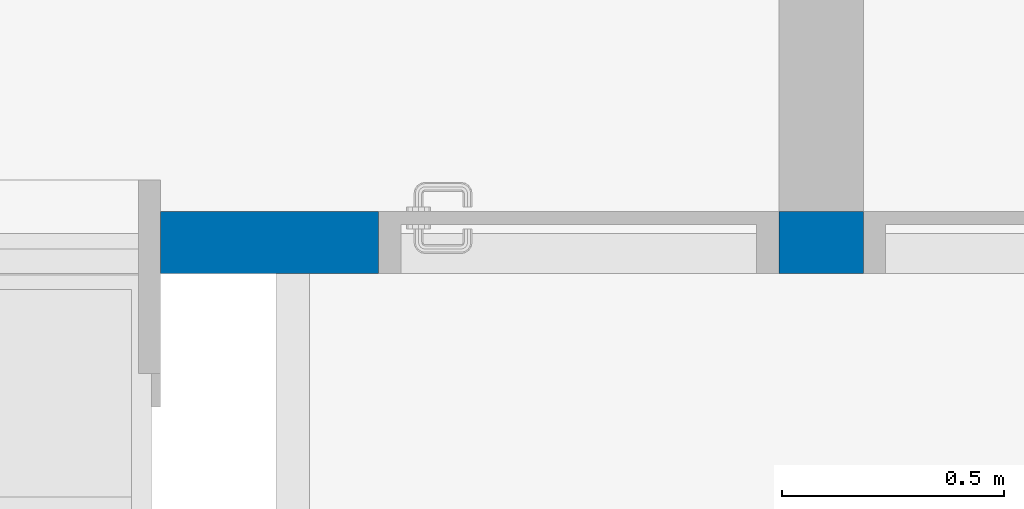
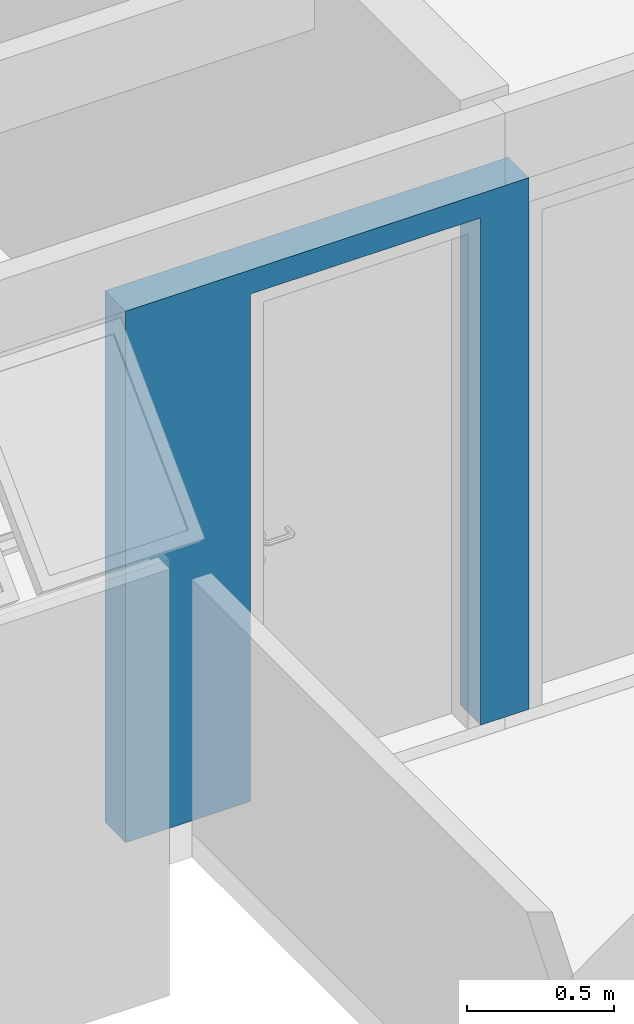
# One storey, part 17 of 37: 1 wall, 1 opening.
"""IFC2X3 building model written with IfcOpenShell, lengths in millimetres."""

from ifc_helpers import new_model, entity, si_unit, converted_unit, derived_unit, money_unit, direction, frame, origin_with_axes, origin_2d_with_axis, place, context, subcontext, project, spatial, polyline, rectangle, outline, extrude, material, layer, layer_set, layer_usage, type_object, element, save


model = new_model("IFC2X3")

# Units and contexts
model_context = context("Model", 3, precision=0.01, world=origin_with_axes(), true_north=direction((0.0, 1.0)))
body_context = subcontext(model_context, "Body", "Model", "MODEL_VIEW")
ifc_project = project(units=[si_unit("LENGTHUNIT", "METRE", prefix="MILLI"), si_unit("AREAUNIT", "SQUARE_METRE"), si_unit("VOLUMEUNIT", "CUBIC_METRE"), converted_unit("PLANEANGLEUNIT", "DEGREE", entity("IfcPlaneAngleMeasure", 0.0174532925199), si_unit("PLANEANGLEUNIT", "RADIAN"), dimensions=[0, 0, 0, 0, 0, 0, 0]), money_unit("USD"), converted_unit("TIMEUNIT", "Year", entity("IfcTimeMeasure", 31556926.0), si_unit("TIMEUNIT", "SECOND"), dimensions=[0, 0, 1, 0, 0, 0, 0]), si_unit("MASSUNIT", "GRAM", prefix="KILO"), si_unit("THERMODYNAMICTEMPERATUREUNIT", "DEGREE_CELSIUS"), si_unit("LUMINOUSINTENSITYUNIT", "LUMEN"), si_unit("ENERGYUNIT", "JOULE", prefix="MEGA"), derived_unit("THERMALCONDUCTANCEUNIT", [(si_unit("POWERUNIT", "WATT"), 1), (si_unit("LENGTHUNIT", "METRE"), -1), (si_unit("THERMODYNAMICTEMPERATUREUNIT", "KELVIN"), -1)]), derived_unit("SPECIFICHEATCAPACITYUNIT", [(si_unit("ENERGYUNIT", "JOULE"), 1), (si_unit("MASSUNIT", "GRAM", prefix="KILO"), -1), (si_unit("THERMODYNAMICTEMPERATUREUNIT", "KELVIN"), -1)]), derived_unit("MASSDENSITYUNIT", [(si_unit("MASSUNIT", "GRAM", prefix="KILO"), 1), (si_unit("VOLUMEUNIT", "CUBIC_METRE"), -1)])], contexts=[model_context])

# Site, building, storey
site_placement = place(None, origin_with_axes())
site = spatial("IfcSite", under=ifc_project, at=site_placement, Name="Local", CompositionType="ELEMENT")
building_placement = place(site_placement, origin_with_axes())
building = spatial("IfcBuilding", under=site, at=building_placement, Name="Construção", CompositionType="ELEMENT")
storey_placement = place(building_placement, frame((0.0, 0.0, 5300.0), z_axis=(0.0, 0.0, 1.0), x_axis=(1.0, 0.0, 0.0)))
storey = spatial("IfcBuildingStorey", under=building, at=storey_placement, Name="Terceiro Pavimento", CompositionType="ELEMENT", Elevation=5300.0)

# Wall, opening
ifc_material = material(Name="GENÉRICO - VEDAÇÃO EXTERNA")
ifc_layer = layer(ifc_material, 140.0, ventilated="UNKNOWN")
ifc_layer_set = layer_set([ifc_layer], Name="GENÉRICO - VEDAÇÃO EXTERNA 140")
ifc_layer_usage = layer_usage(ifc_layer_set, "AXIS2", "POSITIVE", 0.0)
wall_type = type_object("IfcWallType", Name="GENÉRICO - VEDAÇÃO EXTERNA 140", PredefinedType="NOTDEFINED")
wall_placement = place(storey_placement, frame((7480.0, 18035.0, 0.0), z_axis=(0.0, 0.0, 1.0), x_axis=(-1.0, 0.0, 0.0)))
wall = element("IfcWallStandardCase", 1, at=wall_placement, inside=storey, type_object=wall_type, material=ifc_layer_usage, Name="APTO11-PAREDE-004", context=body_context, shape_type="SweptSolid", body=[
    extrude(outline(polyline([(0.0, 0.0), (1580.0, 0.0), (1580.0, 140.0), (0.0, 140.0), (0.0, 0.0)])), origin_with_axes(), (0.0, 0.0, 1.0), 2200.0),
])
opening_placement = place(wall_placement, frame((640.0, 0.0, 0.0), z_axis=(0.0, 0.0, 1.0), x_axis=(1.0, 0.0, 0.0)))
element("IfcOpeningElement", 2, at=opening_placement, cuts=wall, Name="APTO11-PORTA-004", context=body_context, shape_type="SweptSolid", body=[
    extrude(rectangle(XDim=900.0, YDim=2100.0, at=origin_2d_with_axis()), frame((0.0, -140.0, 1050.0), z_axis=(0.0, 1.0, 0.0), x_axis=(-1.0, 0.0, 0.0)), (0.0, 0.0, 1.0), 420.0),
])

save(model, "model.ifc")
